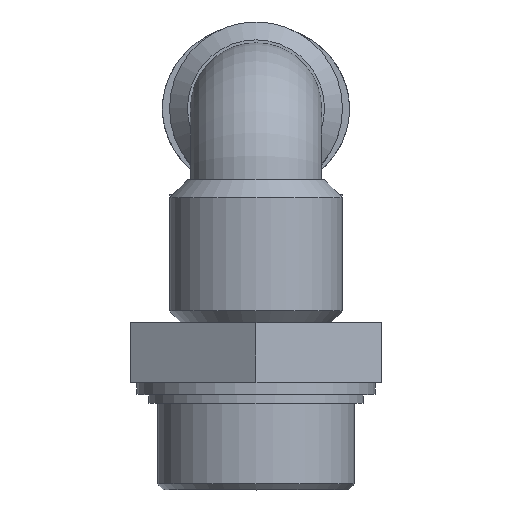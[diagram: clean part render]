
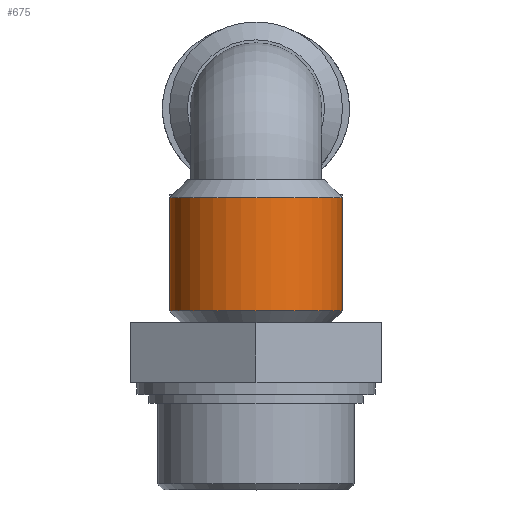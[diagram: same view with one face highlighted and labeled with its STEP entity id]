
A CAD part, top view. The second image highlights one B-rep face of the part: STEP entity #675.
In plain terms, the highlighted cylindrical face has radius 7.25 mm (diameter 14.5 mm), a full revolution.
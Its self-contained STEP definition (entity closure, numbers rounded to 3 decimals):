
#144=FACE_BOUND('',#257,.T.);
#191=FACE_OUTER_BOUND('',#256,.T.);
#256=EDGE_LOOP('',(#531));
#257=EDGE_LOOP('',(#532));
#346=CIRCLE('',#746,7.25);
#348=CIRCLE('',#749,7.25);
#391=VERTEX_POINT('',#1114);
#393=VERTEX_POINT('',#1119);
#452=EDGE_CURVE('',#391,#391,#346,.T.);
#454=EDGE_CURVE('',#393,#393,#348,.T.);
#531=ORIENTED_EDGE('',*,*,#454,.F.);
#532=ORIENTED_EDGE('',*,*,#452,.F.);
#649=CYLINDRICAL_SURFACE('',#748,7.25);
#675=ADVANCED_FACE('',(#191,#144),#649,.T.);
#746=AXIS2_PLACEMENT_3D('',#1115,#882,#883);
#748=AXIS2_PLACEMENT_3D('',#1118,#886,#887);
#749=AXIS2_PLACEMENT_3D('',#1120,#888,#889);
#882=DIRECTION('center_axis',(0.,-1.,0.));
#883=DIRECTION('ref_axis',(-1.,0.,0.));
#886=DIRECTION('center_axis',(0.,-1.,0.));
#887=DIRECTION('ref_axis',(-1.,0.,0.));
#888=DIRECTION('center_axis',(0.,1.,0.));
#889=DIRECTION('ref_axis',(-1.,0.,0.));
#1114=CARTESIAN_POINT('',(7.25,-17.,0.));
#1115=CARTESIAN_POINT('Origin',(0.,-17.,0.));
#1118=CARTESIAN_POINT('Origin',(0.,-6.,0.));
#1119=CARTESIAN_POINT('',(7.25,-7.5,0.));
#1120=CARTESIAN_POINT('Origin',(0.,-7.5,0.));
